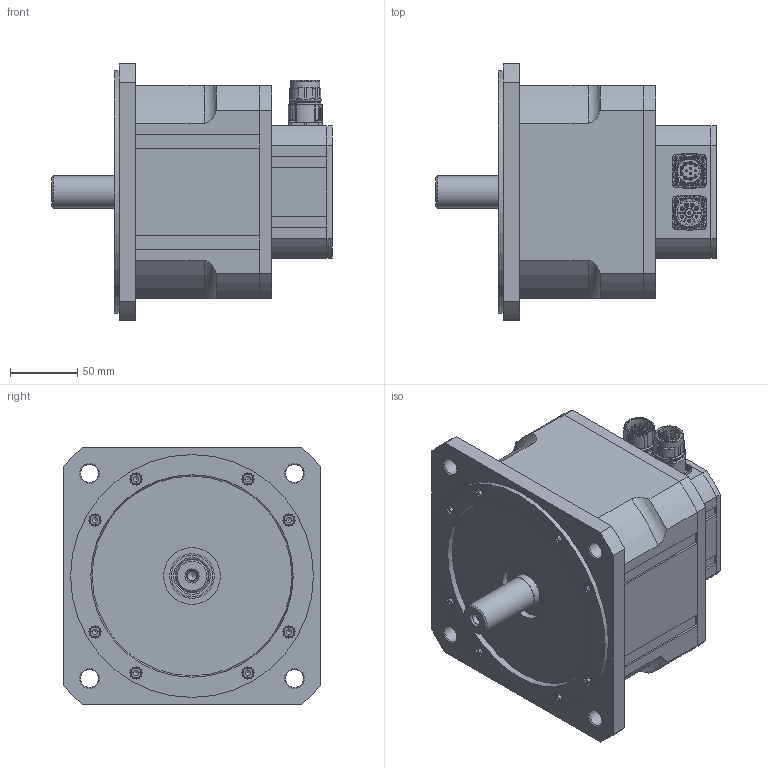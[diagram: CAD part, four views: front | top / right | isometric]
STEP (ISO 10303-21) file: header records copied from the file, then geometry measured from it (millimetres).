
FILE_DESCRIPTION(/* description */ (''),/* implementation_level */ '2;1');
FILE_NAME(/* name */ 'V:\6\N6025 00\3D Z\N6025 00 Z_1800_8P_12P.stp',/* time_stamp */ '2017-06-28T11:48:48+02:00',/* author */ ('simik'),/* organization */ (''),/* preprocessor_version */ 'ST-DEVELOPER v16.13',/* originating_system */ 'Autodesk Inventor 2018',/* authorisation */ '');
FILE_SCHEMA (('AUTOMOTIVE_DESIGN { 1 0 10303 214 3 1 1 }'));
Products named in the file (5): N6025 00 Z; N6025 00 Z_front; N6025 00 Z_1800; 127331; 127344
Assembly tree (4 placements, depth 2):
  N6025 00 Z
    N6025 00 Z_front
    N6025 00 Z_1800
    127331
    127344
Bounding box: 208 x 190 x 190 mm (x, y, z)
Volume: 1427985.8 mm3; surface area: 319268.4 mm2
Topology: 4 solids, 43 shells, 2105 faces, 5033 edges, 3107 vertices
Faces by surface type: cylinder 851, plane 670, torus 188, cone 185, bspline 164, sphere 47
Full cylindrical faces by diameter (mm): 1 x16, 1.18 x12, 1.3 x4, 2 x4, 2.013 x8, 2.15 x4, 2.208 x8, 2.4 x8, 2.459 x10, 2.5 x8, 2.7 x8, 3 x4, 3.242 x8, 3.3 x4, 3.545 x4, 3.95 x4, 4 x4, 4.134 x16, 4.4 x4, 5 x24, 5.3 x16, 5.8 x1, 6.5 x4, 6.647 x1, 6.8 x1, 8 x4, 8.4 x1, 8.5 x20, 9 x16, 13 x4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
Entity records: 67609 total; most frequent: CARTESIAN_POINT 19941, DIRECTION 9839, ORIENTED_EDGE 8778, EDGE_CURVE 4301, AXIS2_PLACEMENT_3D 4213, VERTEX_POINT 2865, EDGE_LOOP 2774, CIRCLE 2106
